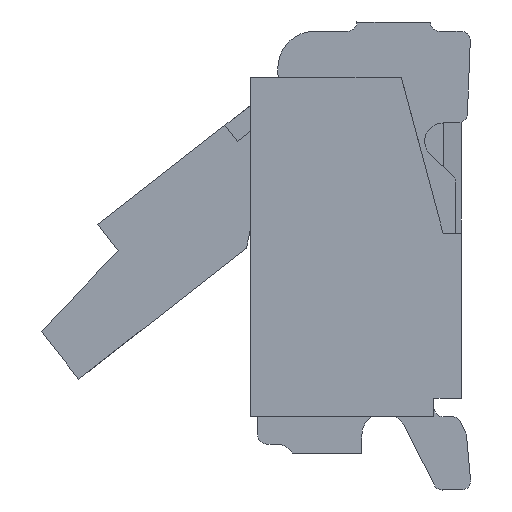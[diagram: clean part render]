
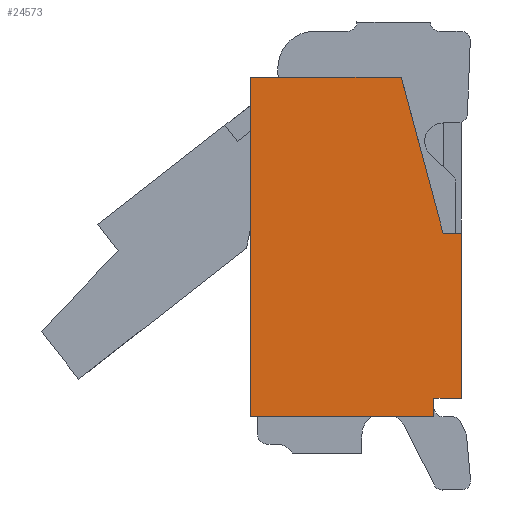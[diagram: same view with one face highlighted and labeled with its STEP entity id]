
A CAD part, left-side view. The second image highlights one B-rep face of the part: STEP entity #24573.
In plain terms, the highlighted planar face has unit normal (-1, 0, 0).
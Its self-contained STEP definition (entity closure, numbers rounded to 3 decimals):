
#3685=DIRECTION('',(0.,-1.,0.));
#3686=VECTOR('',#3685,0.1);
#3687=CARTESIAN_POINT('',(-19.35,-0.475,-0.05));
#3688=LINE('',#3687,#3686);
#3689=DIRECTION('',(0.,0.,-1.));
#3690=VECTOR('',#3689,0.9);
#3691=CARTESIAN_POINT('',(-19.35,-0.575,-0.05));
#3692=LINE('',#3691,#3690);
#3693=DIRECTION('',(0.,1.,0.));
#3694=VECTOR('',#3693,0.15);
#3695=CARTESIAN_POINT('',(-19.35,-0.575,-0.95));
#3696=LINE('',#3695,#3694);
#3697=DIRECTION('',(0.,0.,-1.));
#3698=VECTOR('',#3697,0.1);
#3699=CARTESIAN_POINT('',(-19.35,-0.425,-0.95));
#3700=LINE('',#3699,#3698);
#3701=DIRECTION('',(0.,1.,0.));
#3702=VECTOR('',#3701,1.);
#3703=CARTESIAN_POINT('',(-19.35,-0.425,-1.05));
#3704=LINE('',#3703,#3702);
#3705=DIRECTION('',(0.,0.,1.));
#3706=VECTOR('',#3705,1.85);
#3707=CARTESIAN_POINT('',(-19.35,0.575,-1.05));
#3708=LINE('',#3707,#3706);
#3709=DIRECTION('',(0.,-0.259,-0.966));
#3710=VECTOR('',#3709,0.88);
#3711=CARTESIAN_POINT('',(-19.35,-0.247,0.8));
#3712=LINE('',#3711,#3710);
#3729=DIRECTION('',(0.,1.,0.));
#3730=VECTOR('',#3729,0.822);
#3731=CARTESIAN_POINT('',(-19.35,-0.247,0.8));
#3732=LINE('',#3731,#3730);
#15025=CARTESIAN_POINT('',(-19.35,-0.575,-0.05));
#15026=CARTESIAN_POINT('',(-19.35,-0.575,-0.95));
#15027=VERTEX_POINT('',#15025);
#15028=VERTEX_POINT('',#15026);
#15089=CARTESIAN_POINT('',(-19.35,-0.425,-0.95));
#15090=VERTEX_POINT('',#15089);
#15091=CARTESIAN_POINT('',(-19.35,-0.425,-1.05));
#15092=CARTESIAN_POINT('',(-19.35,0.575,-1.05));
#15093=VERTEX_POINT('',#15091);
#15094=VERTEX_POINT('',#15092);
#15253=CARTESIAN_POINT('',(-19.35,0.575,0.8));
#15254=VERTEX_POINT('',#15253);
#15293=CARTESIAN_POINT('',(-19.35,-0.475,-0.05));
#15294=VERTEX_POINT('',#15293);
#15457=CARTESIAN_POINT('',(-19.35,-0.247,0.8));
#15458=VERTEX_POINT('',#15457);
#24556=CARTESIAN_POINT('',(-19.35,0.,-0.125));
#24557=DIRECTION('',(1.,0.,0.));
#24558=DIRECTION('',(0.,0.,-1.));
#24559=AXIS2_PLACEMENT_3D('',#24556,#24557,#24558);
#24560=PLANE('',#24559);
#24561=ORIENTED_EDGE('',*,*,#24307,.T.);
#24562=ORIENTED_EDGE('',*,*,#19616,.T.);
#24563=ORIENTED_EDGE('',*,*,#20302,.T.);
#24565=ORIENTED_EDGE('',*,*,#24564,.T.);
#24566=ORIENTED_EDGE('',*,*,#20057,.T.);
#24567=ORIENTED_EDGE('',*,*,#19938,.T.);
#24569=ORIENTED_EDGE('',*,*,#24568,.F.);
#24570=ORIENTED_EDGE('',*,*,#24547,.T.);
#24571=EDGE_LOOP('',(#24561,#24562,#24563,#24565,#24566,#24567,#24569,#24570));
#24572=FACE_OUTER_BOUND('',#24571,.F.);
#19616=EDGE_CURVE('',#15027,#15028,#3692,.T.);
#19938=EDGE_CURVE('',#15094,#15254,#3708,.T.);
#20057=EDGE_CURVE('',#15093,#15094,#3704,.T.);
#20302=EDGE_CURVE('',#15028,#15090,#3696,.T.);
#24307=EDGE_CURVE('',#15294,#15027,#3688,.T.);
#24547=EDGE_CURVE('',#15458,#15294,#3712,.T.);
#24564=EDGE_CURVE('',#15090,#15093,#3700,.T.);
#24568=EDGE_CURVE('',#15458,#15254,#3732,.T.);
#24573=ADVANCED_FACE('',(#24572),#24560,.F.);
